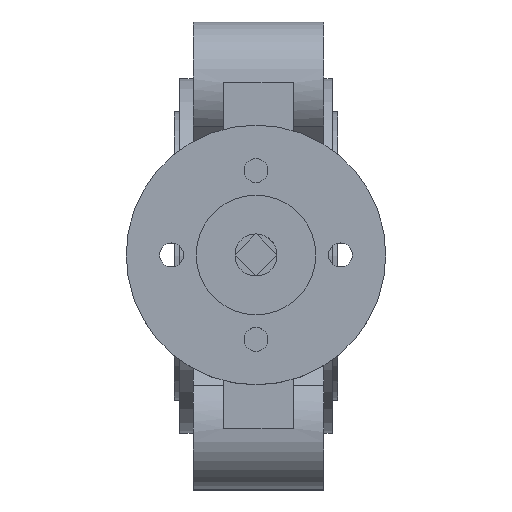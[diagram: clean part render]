
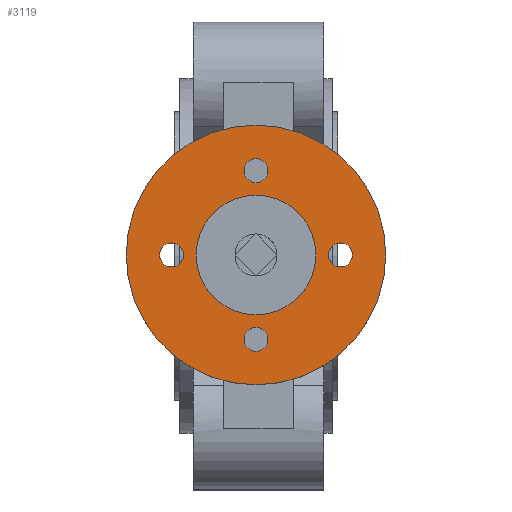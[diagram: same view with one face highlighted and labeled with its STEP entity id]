
A CAD part, top view. The second image highlights one B-rep face of the part: STEP entity #3119.
In plain terms, the highlighted planar face has unit normal (0, 0, 1).
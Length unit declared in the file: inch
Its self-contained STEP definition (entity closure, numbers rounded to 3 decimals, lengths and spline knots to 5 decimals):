
#3048=CARTESIAN_POINT('',(0.725,0.0,10.14));
#3049=DIRECTION('',(0.0,0.0,1.0));
#3050=DIRECTION('',(1.0,0.0,0.0));
#3051=AXIS2_PLACEMENT_3D('',#3048,#3049,#3050);
#3052=PLANE('',#3051);
#3053=CARTESIAN_POINT('',(2.24,0.0,10.14));
#3054=VERTEX_POINT('',#3053);
#3055=CARTESIAN_POINT('',(0.725,0.0,10.14));
#3056=DIRECTION('',(0.0,0.0,-1.0));
#3057=DIRECTION('',(1.0,0.0,0.0));
#3058=AXIS2_PLACEMENT_3D('',#3055,#3056,#3057);
#3059=CIRCLE('',#3058,1.515);
#3060=EDGE_CURVE('',#3054,#3054,#3059,.T.);
#3061=ORIENTED_EDGE('',*,*,#3060,.F.);
#3062=EDGE_LOOP('',(#3061));
#3063=FACE_OUTER_BOUND('',#3062,.T.);
#3064=CARTESIAN_POINT('',(1.4225,0.0,10.14));
#3065=VERTEX_POINT('',#3064);
#3066=CARTESIAN_POINT('',(0.725,0.0,10.14));
#3067=DIRECTION('',(0.0,0.0,-1.0));
#3068=DIRECTION('',(1.0,0.0,0.0));
#3069=AXIS2_PLACEMENT_3D('',#3066,#3067,#3068);
#3070=CIRCLE('',#3069,0.6975);
#3071=EDGE_CURVE('',#3065,#3065,#3070,.T.);
#3072=ORIENTED_EDGE('',*,*,#3071,.T.);
#3073=EDGE_LOOP('',(#3072));
#3074=FACE_BOUND('',#3073,.T.);
#3075=CARTESIAN_POINT('',(-0.26,0.14,10.14));
#3076=VERTEX_POINT('',#3075);
#3077=CARTESIAN_POINT('',(-0.26,0.0,10.14));
#3078=DIRECTION('',(0.0,0.0,-1.0));
#3079=DIRECTION('',(0.0,-1.0,0.0));
#3080=AXIS2_PLACEMENT_3D('',#3077,#3078,#3079);
#3081=CIRCLE('',#3080,0.14);
#3082=EDGE_CURVE('',#3076,#3076,#3081,.T.);
#3083=ORIENTED_EDGE('',*,*,#3082,.T.);
#3084=EDGE_LOOP('',(#3083));
#3085=FACE_BOUND('',#3084,.T.);
#3086=CARTESIAN_POINT('',(1.71,-0.14,10.14));
#3087=VERTEX_POINT('',#3086);
#3088=CARTESIAN_POINT('',(1.71,0.0,10.14));
#3089=DIRECTION('',(0.0,0.0,-1.0));
#3090=DIRECTION('',(0.0,1.0,0.0));
#3091=AXIS2_PLACEMENT_3D('',#3088,#3089,#3090);
#3092=CIRCLE('',#3091,0.14);
#3093=EDGE_CURVE('',#3087,#3087,#3092,.T.);
#3094=ORIENTED_EDGE('',*,*,#3093,.T.);
#3095=EDGE_LOOP('',(#3094));
#3096=FACE_BOUND('',#3095,.T.);
#3097=CARTESIAN_POINT('',(0.585,-0.985,10.14));
#3098=VERTEX_POINT('',#3097);
#3099=CARTESIAN_POINT('',(0.725,-0.985,10.14));
#3100=DIRECTION('',(0.0,0.0,-1.0));
#3101=DIRECTION('',(1.0,0.0,0.0));
#3102=AXIS2_PLACEMENT_3D('',#3099,#3100,#3101);
#3103=CIRCLE('',#3102,0.14);
#3104=EDGE_CURVE('',#3098,#3098,#3103,.T.);
#3105=ORIENTED_EDGE('',*,*,#3104,.T.);
#3106=EDGE_LOOP('',(#3105));
#3107=FACE_BOUND('',#3106,.T.);
#3108=CARTESIAN_POINT('',(0.865,0.985,10.14));
#3109=VERTEX_POINT('',#3108);
#3110=CARTESIAN_POINT('',(0.725,0.985,10.14));
#3111=DIRECTION('',(0.0,0.0,-1.0));
#3112=DIRECTION('',(-1.0,0.0,0.0));
#3113=AXIS2_PLACEMENT_3D('',#3110,#3111,#3112);
#3114=CIRCLE('',#3113,0.14);
#3115=EDGE_CURVE('',#3109,#3109,#3114,.T.);
#3116=ORIENTED_EDGE('',*,*,#3115,.T.);
#3117=EDGE_LOOP('',(#3116));
#3118=FACE_BOUND('',#3117,.T.);
#3119=ADVANCED_FACE('',(#3063,#3074,#3085,#3096,#3107,#3118),#3052,.T.);
